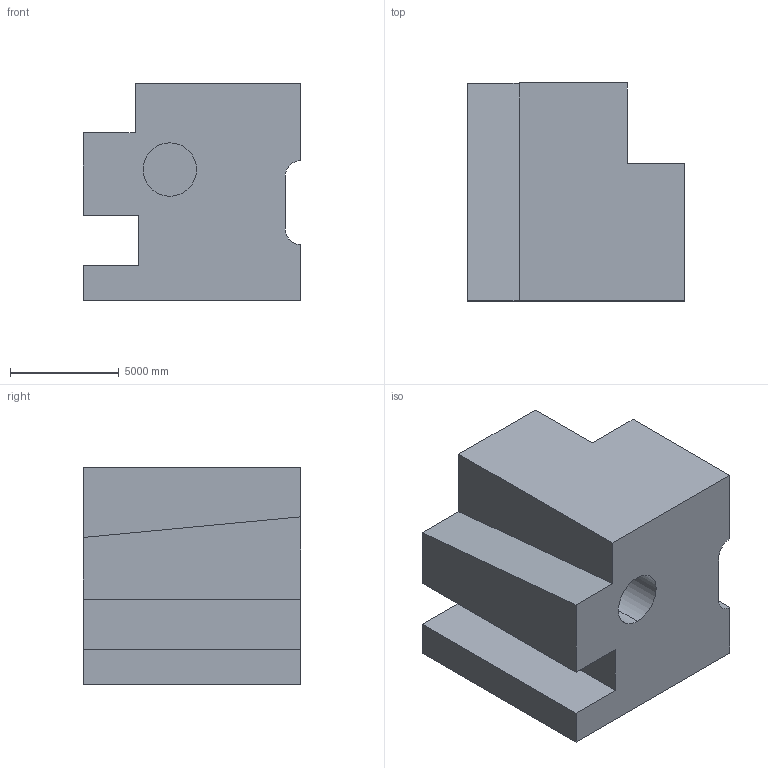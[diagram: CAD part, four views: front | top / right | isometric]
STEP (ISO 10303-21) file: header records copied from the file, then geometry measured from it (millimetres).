
FILE_DESCRIPTION (( 'STEP AP203' ), '1' );
FILE_NAME ('1558.STEP', '2022-08-18T15:47:23', ( 'user' ), ( '' ), 'SwSTEP 2.0', 'SolidWorks 2021', '' );
FILE_SCHEMA (( 'CONFIG_CONTROL_DESIGN' ));
Length unit declared in the file: centimetre
Products named in the file (1): 1558
Bounding box: 10000 x 10000 x 10000 mm (x, y, z)
Volume: 719980737855.6 mm3; surface area: 642841987 mm2
Topology: 1 solids, 1 shells, 29 faces, 78 edges, 52 vertices
Faces by surface type: plane 25, cylinder 4
Entity records: 977 total; most frequent: CARTESIAN_POINT 166, ORIENTED_EDGE 156, DIRECTION 144, EDGE_CURVE 78, LINE 68, VECTOR 68, VERTEX_POINT 52, AXIS2_PLACEMENT_3D 38
